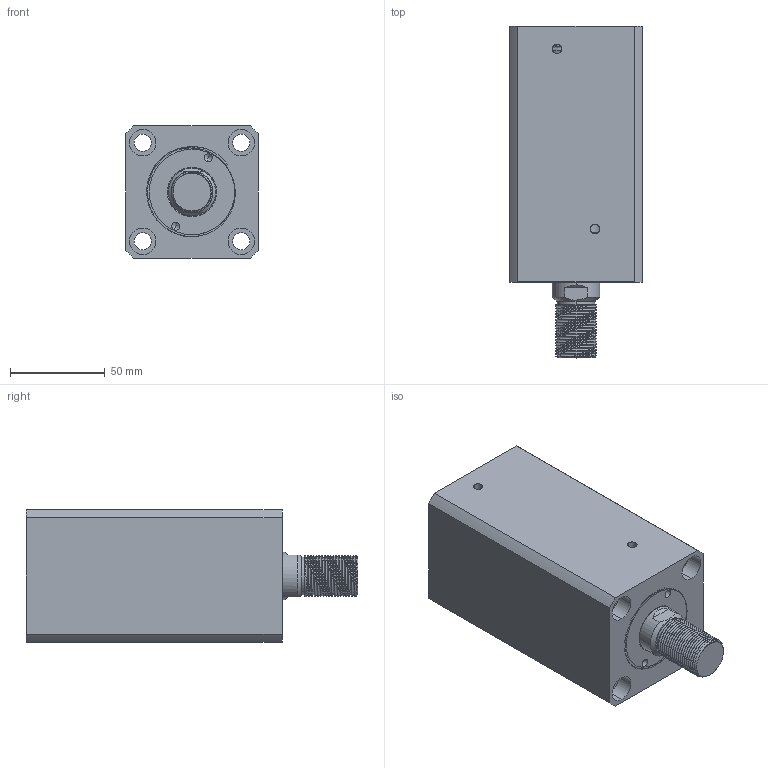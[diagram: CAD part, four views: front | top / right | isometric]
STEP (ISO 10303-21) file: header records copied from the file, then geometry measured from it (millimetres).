
FILE_DESCRIPTION (( 'STEP AP214' ), '1' );
FILE_NAME ('chtb-sdmb40x80w_asm.STEP', '2018-06-07T00:48:24', ( 'Windows' ), ( 'Microsoft' ), 'SwSTEP 2.0', 'SolidWorks 2015', '' );
FILE_SCHEMA (( 'AUTOMOTIVE_DESIGN' ));
Length unit declared in the file: millimetre
Products named in the file (4): chtb-sdmb40x80w_asm; CHTB-SD40QG; CHTB-SDMB40X80NBT; CHTB-SD40X80WHSG
Assembly tree (3 placements, depth 2):
  chtb-sdmb40x80w_asm
    CHTB-SD40X80WHSG
    CHTB-SDMB40X80NBT
    CHTB-SD40QG
Bounding box: 70 x 175 x 70 mm (x, y, z)
Volume: 562198.2 mm3; surface area: 110341.5 mm2
Topology: 3 solids, 4 shells, 201 faces, 539 edges, 359 vertices
Faces by surface type: cylinder 122, plane 38, bspline 16, torus 14, cone 11
Entity records: 13455 total; most frequent: CARTESIAN_POINT 8586, ORIENTED_EDGE 1066, DIRECTION 904, EDGE_CURVE 533, AXIS2_PLACEMENT_3D 374, VERTEX_POINT 359, EDGE_LOOP 238, ADVANCED_FACE 201
